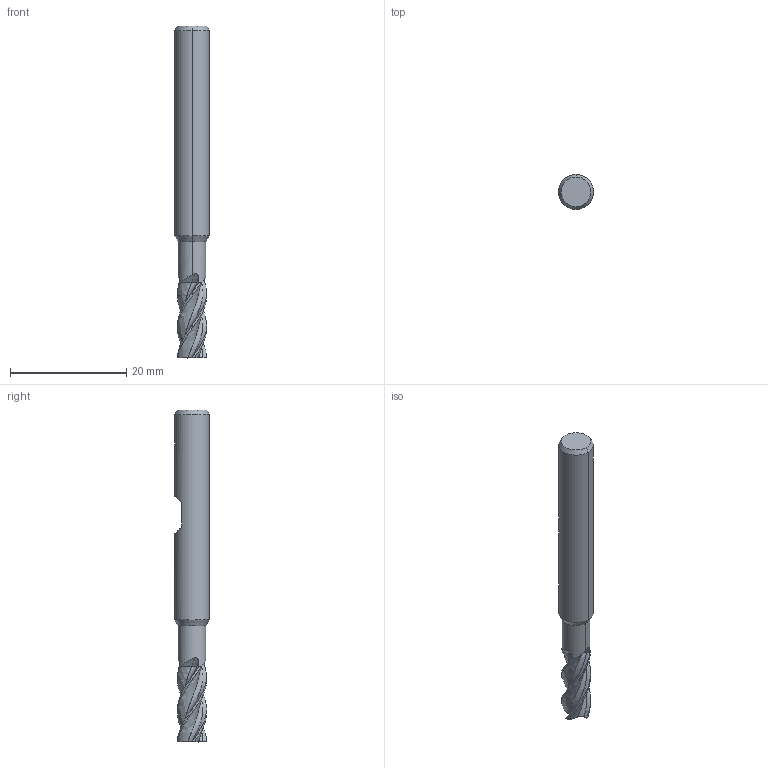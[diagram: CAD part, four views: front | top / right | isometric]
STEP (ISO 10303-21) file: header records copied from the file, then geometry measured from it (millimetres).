
FILE_DESCRIPTION(('no description'),'unknown implementation level');
FILE_NAME('solid554Oy5YqQ8iN57UnXUEebHX2kLQ_1.STP',' ',('CIMSOURCE GmbH'),('CADClick - KiM GmbH - www.kimweb.de'),'unknown preprocess','ACIS','unknown authorization');
FILE_SCHEMA(('automotive_design'));
Length unit declared in the file: millimetre
Products named in the file (2): NOCUT; CUT
Bounding box: 6 x 6 x 57 mm (x, y, z)
Volume: 1276.5 mm3; surface area: 1277.8 mm2
Topology: 2 solids, 2 shells, 125 faces, 350 edges, 228 vertices
Faces by surface type: bspline 48, plane 27, cone 22, cylinder 16, revolution 12
Entity records: 19774 total; most frequent: CARTESIAN_POINT 13095, STYLED_ITEM 705, PRESENTATION_STYLE_ASSIGNMENT 705, COLOUR_RGB 705, ORIENTED_EDGE 700, DIRECTION 380, EDGE_CURVE 350, CURVE_STYLE 350
